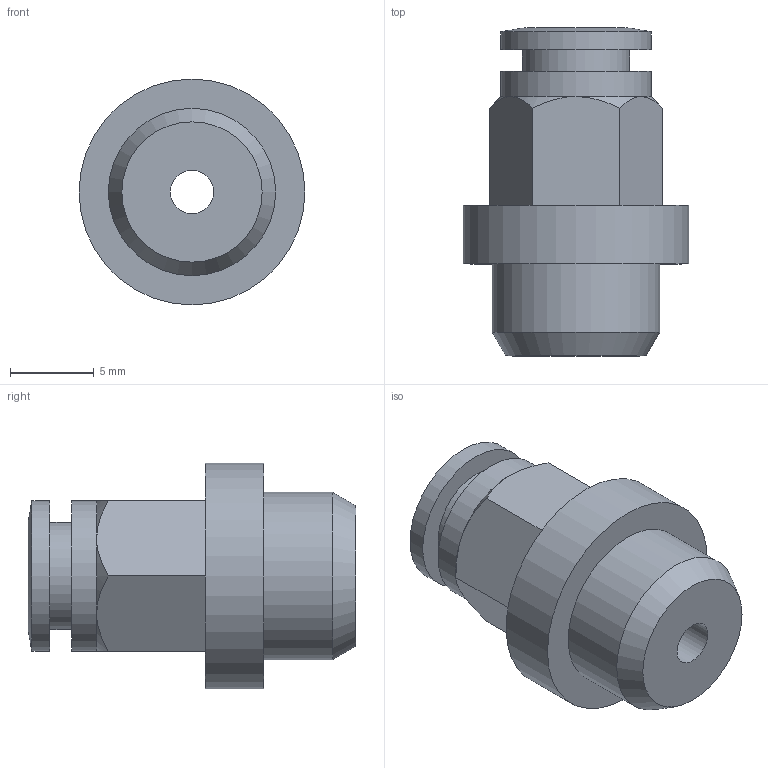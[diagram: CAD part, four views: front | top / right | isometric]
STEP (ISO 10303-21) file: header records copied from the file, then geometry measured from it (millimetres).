
FILE_DESCRIPTION((''),'2;1');
FILE_NAME('C:\Documents and Settings\rivolro1\Documenti\copia di Raccordi\T01XXXX\T010418.stp','2007-10-30T15:13:58',('Rivolro1'),(''),'Autodesk Inventor 2008','Autodesk Inventor 2008','');
FILE_SCHEMA(('AUTOMOTIVE_DESIGN { 1 0 10303 214 1 1 1 1 }'));
Length unit declared in the file: millimetre
Products named in the file (1): T010418
Bounding box: 13.5 x 19.6 x 13.5 mm (x, y, z)
Volume: 1353.8 mm3; surface area: 1172.3 mm2
Topology: 1 solids, 1 shells, 28 faces, 55 edges, 34 vertices
Faces by surface type: plane 13, cone 8, cylinder 6, bspline 1
Full cylindrical faces by diameter (mm): 4.2 x1, 6.4 x1, 9 x2, 10 x1, 13.5 x1
Entity records: 709 total; most frequent: CARTESIAN_POINT 148, DIRECTION 110, ORIENTED_EDGE 90, AXIS2_PLACEMENT_3D 49, EDGE_CURVE 45, EDGE_LOOP 44, VERTEX_POINT 33, FACE_OUTER_BOUND 28
